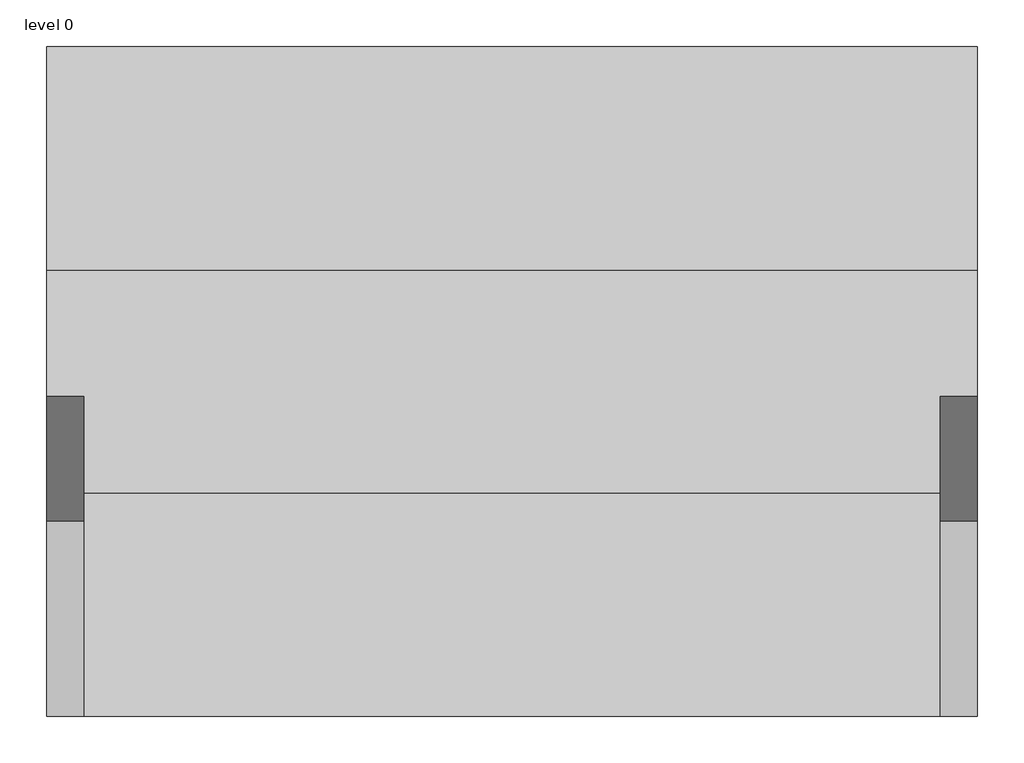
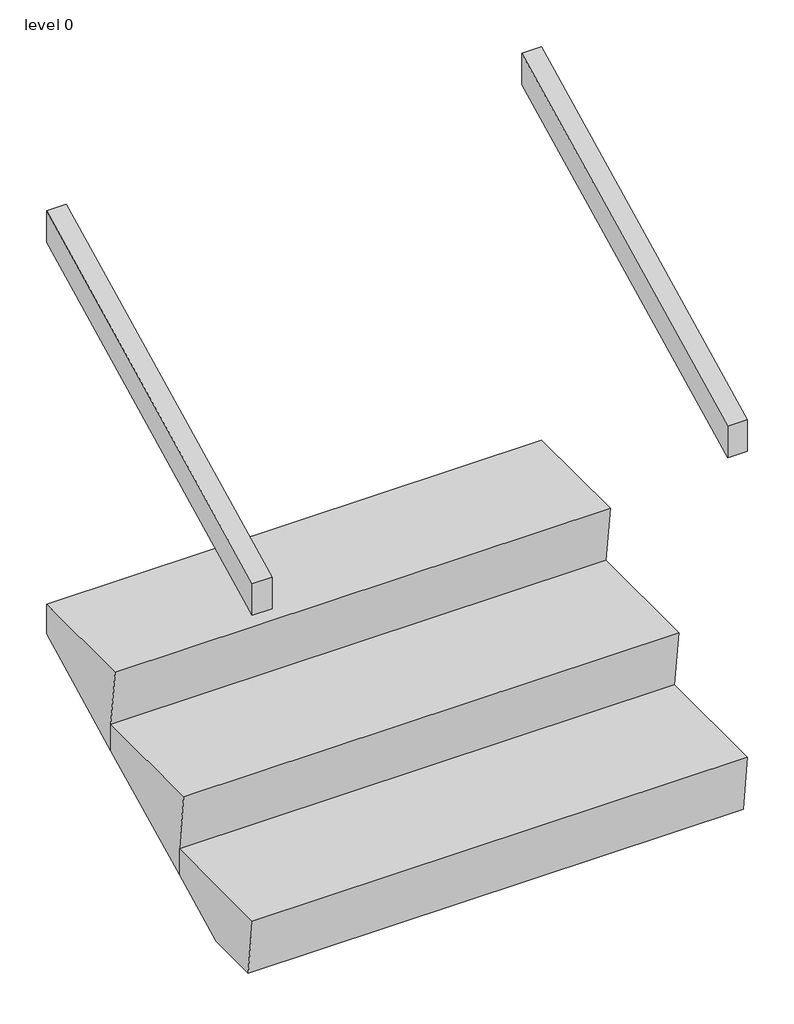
# One storey, incomplete: 2 railings, 1 stair flight.
"""IFC4 building model written with IfcOpenShell, lengths in millimetres."""

import ifcopenshell
import ifcopenshell.guid

model = None  # the IFC model being written
_history = None  # IfcOwnerHistory: only IFC2X3 demands one
_inside = {}  # id of a spatial element -> (the spatial element, [elements in it])
_under = {}  # id of a project, library or spatial element -> (it, [spatial elements below it])
_declared = {}  # id of a project -> (the project, [libraries it declares])
_typed = {}  # id of a type object -> (the type object, [elements of that type])
_made_of = {}  # id of a material, layer set ... -> (it, [elements and type objects made of it])


def new_model(schema):
    """Start an empty IFC model of exactly this schema.

    Asked for "IFC4X3", IfcOpenShell would pick the latest addendum, in which some entities
    have other attributes; the version numbers below select the first issue.
    IFC2X3 requires an IfcOwnerHistory on every rooted entity: one is made here for all.
    """
    global model, _history
    if schema == "IFC4X3":
        model = ifcopenshell.file(schema_version=(4, 3, 0, 0))
    else:
        model = ifcopenshell.file(schema=schema)
    _inside.clear()
    _under.clear()
    _declared.clear()
    _typed.clear()
    _made_of.clear()
    _history = None
    if model.schema == "IFC2X3":
        org = make("IfcOrganization", Name="unknown")
        user = make(
            "IfcPersonAndOrganization",
            ThePerson=make("IfcPerson", FamilyName="unknown"),
            TheOrganization=org,
        )
        app = make(
            "IfcApplication",
            ApplicationDeveloper=org,
            Version="unknown",
            ApplicationFullName="unknown",
            ApplicationIdentifier="unknown",
        )
        _history = make(
            "IfcOwnerHistory",
            OwningUser=user,
            OwningApplication=app,
            ChangeAction="ADDED",
            CreationDate=0,
        )
    return model


def make(cls, **values):
    """One entity of the class cls with the attributes given. An attribute that is None is left unset."""
    return model.create_entity(
        cls, **{name: value for name, value in values.items() if value is not None}
    )


def rooted(cls, **values):
    """An entity with a GlobalId (a new one), such as an element, a storey or a relation."""
    return make(cls, GlobalId=ifcopenshell.guid.new(), OwnerHistory=_history, **values)


def si_unit(unit_type, name, prefix=None):
    """IfcSIUnit, for example si_unit("LENGTHUNIT", "METRE", prefix="MILLI")."""
    return make("IfcSIUnit", UnitType=unit_type, Prefix=prefix, Name=name)


def assignment(units):
    """IfcUnitAssignment: the units of a project."""
    return None if units is None else make("IfcUnitAssignment", Units=units)


def point(xyz):
    """IfcCartesianPoint."""
    return None if xyz is None else make("IfcCartesianPoint", Coordinates=xyz)


def direction(xyz):
    """IfcDirection."""
    return None if xyz is None else make("IfcDirection", DirectionRatios=xyz)


def frame(location, z_axis=None, x_axis=None):
    """IfcAxis2Placement3D, a coordinate frame: its origin and axes. An axis left out is left unset."""
    return make(
        "IfcAxis2Placement3D",
        Location=point(location),
        Axis=direction(z_axis),
        RefDirection=direction(x_axis),
    )


def origin():
    """The frame at (0, 0, 0) with its axes left unset."""
    return frame((0.0, 0.0, 0.0))


def place(relative_to, where):
    """IfcLocalPlacement: puts the frame where relative to a parent placement (None: the world)."""
    return make(
        "IfcLocalPlacement", PlacementRelTo=relative_to, RelativePlacement=where
    )


def context(
    kind, dimensions, precision=None, world=None, true_north=None, identifier=None
):
    """IfcGeometricRepresentationContext, for example the 3D "Model" context."""
    return make(
        "IfcGeometricRepresentationContext",
        ContextIdentifier=identifier,
        ContextType=kind,
        CoordinateSpaceDimension=dimensions,
        Precision=precision,
        WorldCoordinateSystem=world,
        TrueNorth=true_north,
    )


def project(units=None, contexts=None):
    """IfcProject with its units and contexts."""
    return rooted(
        "IfcProject",
        Name="project",
        RepresentationContexts=contexts,
        UnitsInContext=assignment(units),
    )


def spatial(cls, under=None, at=None, **own):
    """A site, building, storey or space (cls), placed at a placement, below another one or the project."""
    s = rooted(cls, ObjectPlacement=at, **own)
    if under is not None:
        _under.setdefault(under.id(), (under, []))[1].append(s)
    return s


def polyline(points):
    """IfcPolyline through the points."""
    return make("IfcPolyline", Points=[point(p) for p in points])


def outline(outer, holes=None, kind="AREA"):
    """IfcArbitraryClosedProfileDef: a profile drawn as a closed curve; with holes, ...WithVoids."""
    if holes is None:
        return make("IfcArbitraryClosedProfileDef", ProfileType=kind, OuterCurve=outer)
    return make(
        "IfcArbitraryProfileDefWithVoids",
        ProfileType=kind,
        OuterCurve=outer,
        InnerCurves=holes,
    )


def extrude(swept, where, along, depth):
    """IfcExtrudedAreaSolid: the profile swept, set in the frame where, extruded along a direction by depth."""
    return make(
        "IfcExtrudedAreaSolid",
        SweptArea=swept,
        Position=where,
        ExtrudedDirection=direction(along),
        Depth=depth,
    )


def faces_of(points, faces, orient=None, outer=None):
    """IfcFace entities. A face is a list of loops; a loop is a list of indices into points, from 0.

    orient and outer hold one flag for each loop. By default every Orientation is true, the
    first loop of a face is its IfcFaceOuterBound and the others are IfcFaceBound.
    """
    made = []
    for i, loops in enumerate(faces):
        bounds = []
        for j, loop in enumerate(loops):
            is_outer = j == 0 if outer is None else outer[i][j]
            bounds.append(
                make(
                    "IfcFaceOuterBound" if is_outer else "IfcFaceBound",
                    Bound=make("IfcPolyLoop", Polygon=[points[k] for k in loop]),
                    Orientation=True if orient is None else orient[i][j],
                )
            )
        made.append(make("IfcFace", Bounds=bounds))
    return made


def faceted_brep(points, faces, orient=None, outer=None, voids=None):
    """IfcFacetedBrep: a solid bounded by flat faces; with voids (closed shells), ...WithVoids."""
    shared = [point(p) for p in points]
    hull = make("IfcClosedShell", CfsFaces=faces_of(shared, faces, orient, outer))
    if voids is None:
        return make("IfcFacetedBrep", Outer=hull)
    return make(
        "IfcFacetedBrepWithVoids",
        Outer=hull,
        Voids=[
            make(cls, CfsFaces=faces_of(shared, fs, o, b)) for cls, fs, o, b in voids
        ],
    )


def shape(context_of_items, identifier, shape_type, items):
    """IfcShapeRepresentation: the items that make up one representation, for example the "Body"."""
    return make(
        "IfcShapeRepresentation",
        ContextOfItems=context_of_items,
        RepresentationIdentifier=identifier,
        RepresentationType=shape_type,
        Items=items,
    )


def source(mapping_origin, context_of_items, identifier, shape_type, items):
    """IfcRepresentationMap: a shape defined once, which mapped items show again and again."""
    return make(
        "IfcRepresentationMap",
        MappingOrigin=mapping_origin,
        MappedRepresentation=shape(context_of_items, identifier, shape_type, items),
    )


def transform(
    local_origin,
    x_axis=None,
    y_axis=None,
    z_axis=None,
    scale=None,
    scale2=None,
    scale3=None,
    uniform=True,
):
    """IfcCartesianTransformationOperator3D, or its non-uniform kind. x_axis, y_axis, z_axis: its Axis1, 2, 3."""
    if uniform:
        return make(
            "IfcCartesianTransformationOperator3D",
            Axis1=direction(x_axis),
            Axis2=direction(y_axis),
            LocalOrigin=point(local_origin),
            Scale=scale,
            Axis3=direction(z_axis),
        )
    return make(
        "IfcCartesianTransformationOperator3DnonUniform",
        Axis1=direction(x_axis),
        Axis2=direction(y_axis),
        LocalOrigin=point(local_origin),
        Scale=scale,
        Axis3=direction(z_axis),
        Scale2=scale2,
        Scale3=scale3,
    )


def mapped(mapping_source, mapping_target):
    """IfcMappedItem: shows the shape of a source again, moved by a transform."""
    return make(
        "IfcMappedItem", MappingSource=mapping_source, MappingTarget=mapping_target
    )


def made_of(thing, what):
    """Note that an element or type object is made of a material, layer set ...; save() writes the relation."""
    if what is not None:
        _made_of.setdefault(what.id(), (what, []))[1].append(thing)
    return thing


def element(
    cls,
    number,
    at=None,
    inside=None,
    cuts=None,
    type_object=None,
    material=None,
    context=None,
    identifier="Body",
    shape_type=None,
    held_by="IfcProductDefinitionShape",
    body=None,
    shapes=None,
    **own,
):
    """One element of the class cls, such as IfcWall. Its Tag is "e" and its number.

    at: its placement. inside: the storey or other place that contains it. cuts: it is an
    opening in that element (IfcRelVoidsElement). A single representation is given by context,
    identifier, shape_type and body (its items); several are given by shapes. held_by: the class
    of the entity that holds the representations. save() writes the other relations.
    """
    e = rooted(cls, Tag="e%d" % number, ObjectPlacement=at, **own)
    if body is not None:
        shapes = [shape(context, identifier, shape_type, body)]
    if shapes is not None:
        e.Representation = make(held_by, Representations=shapes)
    if inside is not None:
        _inside.setdefault(inside.id(), (inside, []))[1].append(e)
    if cuts is not None:
        rooted(
            "IfcRelVoidsElement", RelatingBuildingElement=cuts, RelatedOpeningElement=e
        )
    if type_object is not None:
        _typed.setdefault(type_object.id(), (type_object, []))[1].append(e)
    return made_of(e, material)


def aggregate(whole, parts):
    """IfcRelAggregates: a whole, such as a stair, and the parts it consists of."""
    return rooted("IfcRelAggregates", RelatingObject=whole, RelatedObjects=parts)


def save(model, path):
    """Write the relations noted so far, then the file.

    IfcRelAggregates (storeys below a building ...), IfcRelContainedInSpatialStructure (elements
    in a storey), IfcRelDefinesByType, IfcRelAssociatesMaterial and IfcRelDeclares: one each for
    every whole, place, type object, material and project.
    """
    for whole, parts in _under.values():
        aggregate(whole, parts)
    for where, things in _inside.values():
        rooted(
            "IfcRelContainedInSpatialStructure",
            RelatedElements=things,
            RelatingStructure=where,
        )
    for kind, things in _typed.values():
        rooted("IfcRelDefinesByType", RelatedObjects=things, RelatingType=kind)
    for what, things in _made_of.values():
        rooted("IfcRelAssociatesMaterial", RelatedObjects=things, RelatingMaterial=what)
    for by, libraries in _declared.values():
        rooted("IfcRelDeclares", RelatingContext=by, RelatedDefinitions=libraries)
    model.write(path)


def railing_1_26023e8a(model_context):
    return source(origin(), model_context, "Body", "SweptSolid", [
        extrude(outline(polyline([(595555.8230064, 981.6058101), (595555.8230064, 1066.8), (596470.2230064, 1524.0), (596470.2230064, 1438.8058101), (595555.8230064, 981.6058101)])), frame((83126.4199803, 0.0, 0.0), z_axis=(1.0, 0.0, 0.0), x_axis=(0.0, 1.0, 0.0)), (0.0, 0.0, 1.0), 50.8),
    ])


def railing_1_5d077472(model_context):
    return source(origin(), model_context, "Body", "SweptSolid", [
        extrude(outline(polyline([(595555.8230064, 981.6058101), (595555.8230064, 1066.8), (596470.2230064, 1524.0), (596470.2230064, 1438.8058101), (595555.8230064, 981.6058101)])), frame((81907.2199803, 0.0, 0.0), z_axis=(1.0, 0.0, 0.0), x_axis=(0.0, 1.0, 0.0)), (0.0, 0.0, 1.0), 50.8),
    ])


model = new_model("IFC4")

# Units and contexts
model_context = context("Model", 3, world=origin())
ifc_project = project(units=[si_unit("LENGTHUNIT", "METRE", prefix="MILLI")], contexts=[model_context])

# Site, building, storey
site = spatial("IfcSite", under=ifc_project)
building = spatial("IfcBuilding", under=site)
storey = spatial("IfcBuildingStorey", under=building, Name="level 0", Elevation=0.0)

# Railings
placement = place(None, origin())
railing_1_shape = railing_1_26023e8a(model_context)
element("IfcRailing", 1, ObjectType="Railing 1", at=placement, inside=storey, context=model_context, shape_type="MappedRepresentation", body=[
    mapped(railing_1_shape, transform((0.0, 0.0, 0.0), x_axis=(1.0, 0.0, 0.0), y_axis=(0.0, 1.0, 0.0), z_axis=(0.0, 0.0, 1.0))),
])
railing_1_2_shape = railing_1_5d077472(model_context)
element("IfcRailing", 2, ObjectType="Railing 1", at=placement, inside=storey, context=model_context, shape_type="MappedRepresentation", body=[
    mapped(railing_1_2_shape, transform((0.0, 0.0, 0.0), x_axis=(1.0, 0.0, 0.0), y_axis=(0.0, 1.0, 0.0), z_axis=(0.0, 0.0, 1.0))),
])

# Stair flight
element("IfcStairFlight", 3, ObjectType="3/4\" Nosing", at=placement, inside=storey, context=model_context, shape_type="Brep", body=[
    faceted_brep([(83177.2199803, 595555.8230064, 152.4), (81907.2199803, 595555.8230064, 152.4), (81907.2199803, 595574.8730064, 0.0), (83177.2199803, 595574.8730064, 0.0), (83177.2199803, 595879.6730064, 152.4), (81907.2199803, 595879.6730064, 152.4), (81907.2199803, 595879.6730064, 81.4048417), (81907.2199803, 595716.8633229, 0.0), (83177.2199803, 595716.8633229, 0.0), (83177.2199803, 595879.6730064, 81.4048417), (81907.2199803, 595860.6230064, 304.8), (83177.2199803, 595860.6230064, 304.8), (83177.2199803, 596184.4730064, 304.8), (81907.2199803, 596184.4730064, 304.8), (81907.2199803, 596184.4730064, 233.8048417), (83177.2199803, 596184.4730064, 233.8048417), (81907.2199803, 596165.4230064, 457.2), (83177.2199803, 596165.4230064, 457.2), (83177.2199803, 596470.2230064, 457.2), (81907.2199803, 596470.2230064, 457.2), (81907.2199803, 596470.2230064, 376.6798417), (83177.2199803, 596470.2230064, 376.6798417)], [[[0, 1, 2, 3]], [[1, 0, 4, 5]], [[1, 5, 6, 7, 2]], [[4, 0, 3, 8, 9]], [[10, 11, 12, 13]], [[10, 13, 14, 6, 5]], [[12, 11, 4, 9, 15]], [[5, 4, 11, 10]], [[16, 17, 18, 19]], [[16, 19, 20, 14, 13]], [[18, 17, 12, 15, 21]], [[19, 18, 21, 20]], [[13, 12, 17, 16]], [[3, 2, 7, 8]], [[8, 7, 6, 14, 20, 21, 15, 9]]]),
])

save(model, "model.ifc")
